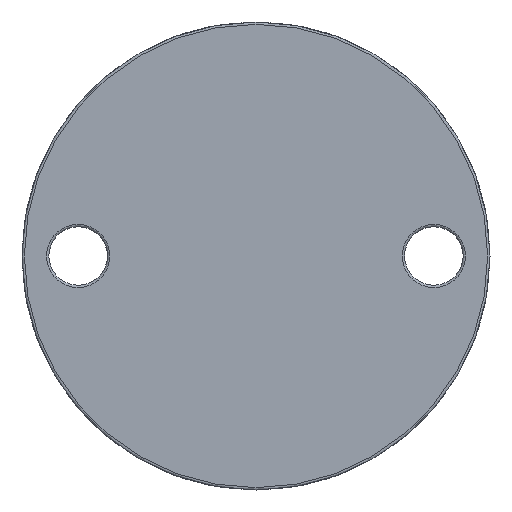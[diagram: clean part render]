
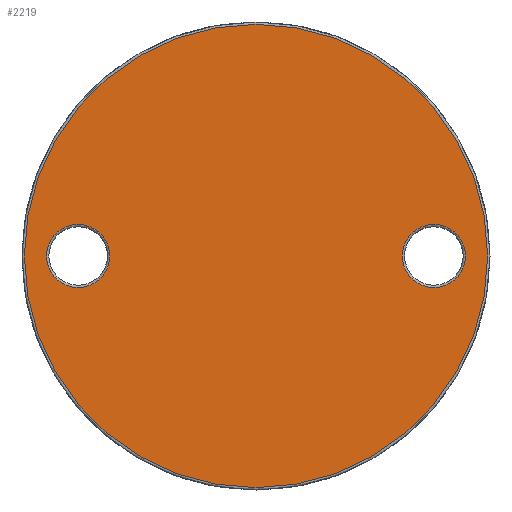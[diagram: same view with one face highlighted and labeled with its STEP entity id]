
A CAD part, left-side view. The second image highlights one B-rep face of the part: STEP entity #2219.
In plain terms, the highlighted planar face has unit normal (-1, 0, 0).
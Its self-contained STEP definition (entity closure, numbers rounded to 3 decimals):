
#1358=CARTESIAN_POINT('',(-525.136,-488.109,-49.5));
#1359=VERTEX_POINT('',#1358);
#1386=CARTESIAN_POINT('',(-525.136,-488.109,49.5));
#1387=VERTEX_POINT('',#1386);
#1388=CARTESIAN_POINT('',(-525.136,-488.109,0.0));
#1389=DIRECTION('',(-1.0,0.0,0.0));
#1390=DIRECTION('',(0.0,0.0,-1.0));
#1391=AXIS2_PLACEMENT_3D('',#1388,#1389,#1390);
#1392=CIRCLE('',#1391,49.5);
#1393=EDGE_CURVE('',#1387,#1359,#1392,.T.);
#1395=CARTESIAN_POINT('',(-525.136,-488.109,0.0));
#1396=DIRECTION('',(-1.0,0.0,0.0));
#1397=DIRECTION('',(0.0,0.0,-1.0));
#1398=AXIS2_PLACEMENT_3D('',#1395,#1396,#1397);
#1399=CIRCLE('',#1398,49.5);
#1400=EDGE_CURVE('',#1359,#1387,#1399,.T.);
#2170=CARTESIAN_POINT('',(-525.136,-438.608,-49.501));
#2171=DIRECTION('',(-1.0,0.0,0.0));
#2172=DIRECTION('',(0.0,-1.0,0.0));
#2173=AXIS2_PLACEMENT_3D('',#2170,#2171,#2172);
#2174=PLANE('',#2173);
#2175=ORIENTED_EDGE('',*,*,#1400,.T.);
#2176=ORIENTED_EDGE('',*,*,#1393,.T.);
#2177=EDGE_LOOP('',(#2175,#2176));
#2178=FACE_OUTER_BOUND('',#2177,.T.);
#2179=CARTESIAN_POINT('',(-525.136,-519.359,0.));
#2180=VERTEX_POINT('',#2179);
#2181=CARTESIAN_POINT('',(-525.136,-532.859,0.));
#2182=VERTEX_POINT('',#2181);
#2183=CARTESIAN_POINT('',(-525.136,-526.109,0.));
#2184=DIRECTION('',(-1.0,0.0,0.0));
#2185=DIRECTION('',(0.0,-1.0,0.0));
#2186=AXIS2_PLACEMENT_3D('',#2183,#2184,#2185);
#2187=CIRCLE('',#2186,6.75);
#2188=EDGE_CURVE('',#2180,#2182,#2187,.T.);
#2189=ORIENTED_EDGE('',*,*,#2188,.F.);
#2190=CARTESIAN_POINT('',(-525.136,-526.109,0.));
#2191=DIRECTION('',(-1.0,0.0,0.0));
#2192=DIRECTION('',(0.0,-1.0,0.0));
#2193=AXIS2_PLACEMENT_3D('',#2190,#2191,#2192);
#2194=CIRCLE('',#2193,6.75);
#2195=EDGE_CURVE('',#2182,#2180,#2194,.T.);
#2196=ORIENTED_EDGE('',*,*,#2195,.F.);
#2197=EDGE_LOOP('',(#2189,#2196));
#2198=FACE_BOUND('',#2197,.T.);
#2199=CARTESIAN_POINT('',(-525.136,-443.359,0.));
#2200=VERTEX_POINT('',#2199);
#2201=CARTESIAN_POINT('',(-525.136,-456.859,0.));
#2202=VERTEX_POINT('',#2201);
#2203=CARTESIAN_POINT('',(-525.136,-450.109,0.));
#2204=DIRECTION('',(-1.0,0.0,0.0));
#2205=DIRECTION('',(0.0,-1.0,0.0));
#2206=AXIS2_PLACEMENT_3D('',#2203,#2204,#2205);
#2207=CIRCLE('',#2206,6.75);
#2208=EDGE_CURVE('',#2200,#2202,#2207,.T.);
#2209=ORIENTED_EDGE('',*,*,#2208,.F.);
#2210=CARTESIAN_POINT('',(-525.136,-450.109,0.));
#2211=DIRECTION('',(-1.0,0.0,0.0));
#2212=DIRECTION('',(0.0,-1.0,0.0));
#2213=AXIS2_PLACEMENT_3D('',#2210,#2211,#2212);
#2214=CIRCLE('',#2213,6.75);
#2215=EDGE_CURVE('',#2202,#2200,#2214,.T.);
#2216=ORIENTED_EDGE('',*,*,#2215,.F.);
#2217=EDGE_LOOP('',(#2209,#2216));
#2218=FACE_BOUND('',#2217,.T.);
#2219=ADVANCED_FACE('',(#2178,#2198,#2218),#2174,.T.);
